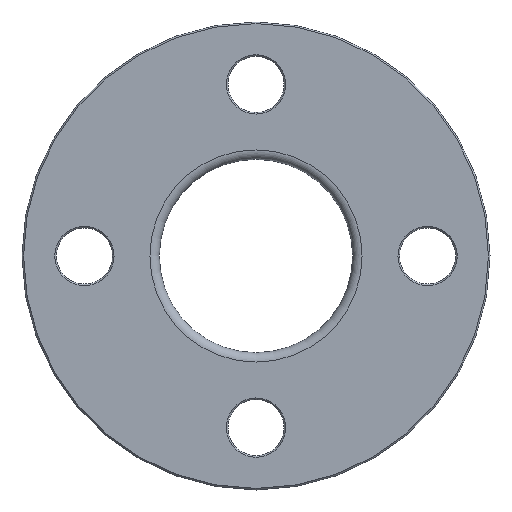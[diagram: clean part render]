
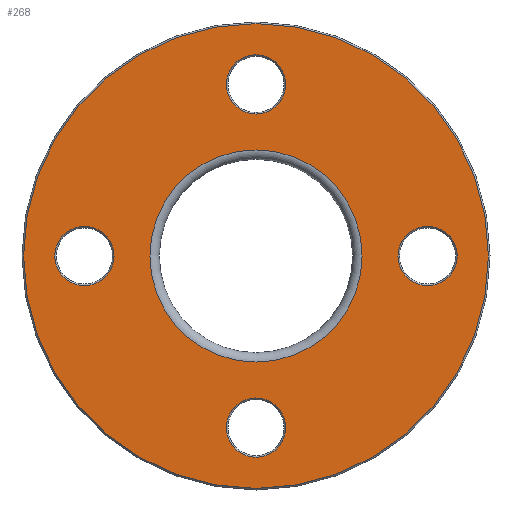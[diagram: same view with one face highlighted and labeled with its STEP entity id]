
A CAD part, front view. The second image highlights one B-rep face of the part: STEP entity #268.
In plain terms, the highlighted planar face has unit normal (0, -1, 0).
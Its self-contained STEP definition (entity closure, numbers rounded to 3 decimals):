
#23=PLANE('',#320);
#62=ORIENTED_EDGE('',*,*,#101,.T.);
#63=ORIENTED_EDGE('',*,*,#102,.T.);
#64=ORIENTED_EDGE('',*,*,#84,.T.);
#65=ORIENTED_EDGE('',*,*,#88,.T.);
#66=ORIENTED_EDGE('',*,*,#92,.T.);
#67=ORIENTED_EDGE('',*,*,#103,.T.);
#84=EDGE_CURVE('',#108,#108,#132,.T.);
#88=EDGE_CURVE('',#112,#112,#136,.T.);
#92=EDGE_CURVE('',#116,#116,#140,.T.);
#101=EDGE_CURVE('',#125,#125,#149,.F.);
#102=EDGE_CURVE('',#126,#126,#150,.T.);
#103=EDGE_CURVE('',#127,#127,#151,.T.);
#108=VERTEX_POINT('',#431);
#112=VERTEX_POINT('',#442);
#116=VERTEX_POINT('',#453);
#125=VERTEX_POINT('',#476);
#126=VERTEX_POINT('',#478);
#127=VERTEX_POINT('',#480);
#132=CIRCLE('',#293,9.5);
#136=CIRCLE('',#300,9.5);
#140=CIRCLE('',#307,9.5);
#149=CIRCLE('',#321,74.5);
#150=CIRCLE('',#322,34.);
#151=CIRCLE('',#323,9.5);
#182=EDGE_LOOP('',(#62));
#183=EDGE_LOOP('',(#63));
#184=EDGE_LOOP('',(#64));
#185=EDGE_LOOP('',(#65));
#186=EDGE_LOOP('',(#66));
#187=EDGE_LOOP('',(#67));
#230=FACE_BOUND('',#182,.T.);
#231=FACE_BOUND('',#183,.T.);
#232=FACE_BOUND('',#184,.T.);
#233=FACE_BOUND('',#185,.T.);
#234=FACE_BOUND('',#186,.T.);
#235=FACE_BOUND('',#187,.T.);
#268=ADVANCED_FACE('',(#230,#231,#232,#233,#234,#235),#23,.F.);
#293=AXIS2_PLACEMENT_3D('',#430,#343,#344);
#300=AXIS2_PLACEMENT_3D('',#441,#357,#358);
#307=AXIS2_PLACEMENT_3D('',#452,#371,#372);
#320=AXIS2_PLACEMENT_3D('',#474,#397,#398);
#321=AXIS2_PLACEMENT_3D('',#475,#399,#400);
#322=AXIS2_PLACEMENT_3D('',#477,#401,#402);
#323=AXIS2_PLACEMENT_3D('',#479,#403,#404);
#343=DIRECTION('',(0.,1.,0.));
#344=DIRECTION('',(0.,0.,1.));
#357=DIRECTION('',(0.,1.,0.));
#358=DIRECTION('',(-1.,0.,0.));
#371=DIRECTION('',(0.,1.,0.));
#372=DIRECTION('',(0.,0.,-1.));
#397=DIRECTION('',(0.,1.,0.));
#398=DIRECTION('',(0.,0.,1.));
#399=DIRECTION('',(0.,1.,0.));
#400=DIRECTION('',(0.,0.,1.));
#401=DIRECTION('',(0.,1.,0.));
#402=DIRECTION('',(0.,0.,1.));
#403=DIRECTION('',(0.,1.,0.));
#404=DIRECTION('',(1.,0.,0.));
#430=CARTESIAN_POINT('',(-55.,0.,0.));
#431=CARTESIAN_POINT('',(-55.,0.,9.5));
#441=CARTESIAN_POINT('',(0.,0.,-55.));
#442=CARTESIAN_POINT('',(-9.5,0.,-55.));
#452=CARTESIAN_POINT('',(55.,0.,0.));
#453=CARTESIAN_POINT('',(55.,0.,-9.5));
#474=CARTESIAN_POINT('',(0.,0.,0.));
#475=CARTESIAN_POINT('',(0.,0.,0.));
#476=CARTESIAN_POINT('',(0.,0.,74.5));
#477=CARTESIAN_POINT('',(0.,0.,0.));
#478=CARTESIAN_POINT('',(0.,0.,34.));
#479=CARTESIAN_POINT('',(0.,0.,55.));
#480=CARTESIAN_POINT('',(9.5,0.,55.));
